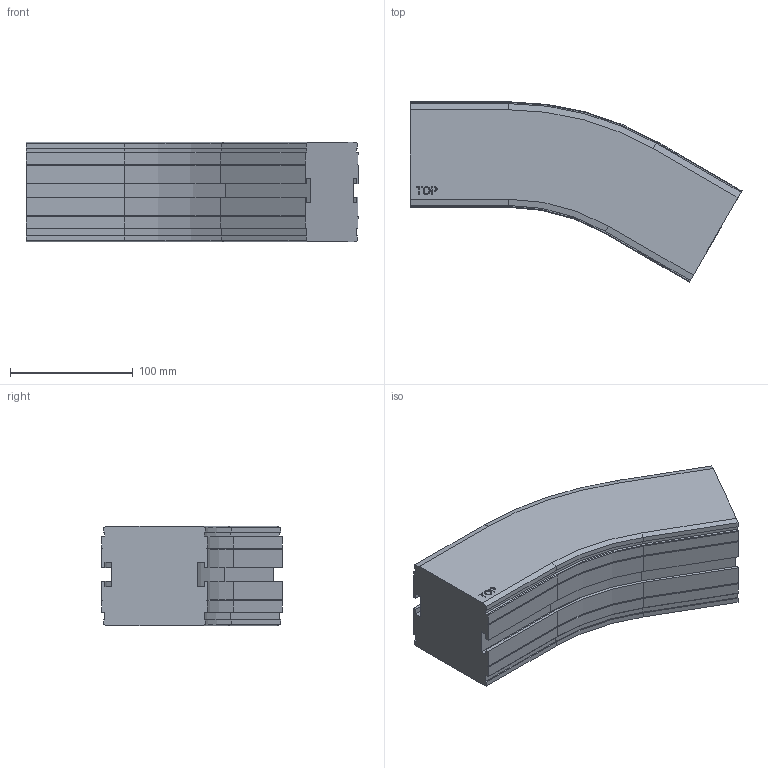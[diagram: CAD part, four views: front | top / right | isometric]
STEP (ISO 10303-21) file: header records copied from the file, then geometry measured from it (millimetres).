
FILE_DESCRIPTION((''),'2;1');
FILE_NAME('C:\Vault Klient\Projekt\Koncept konstruktion\Serie 830 Balk\830-5140.stp','2009-11-27T08:37:13',('Mathias'),(''),'Autodesk Inventor 2010','Autodesk Inventor 2010','');
FILE_SCHEMA(('AUTOMOTIVE_DESIGN { 1 0 10303 214 1 1 1 1 }'));
Length unit declared in the file: millimetre
Products named in the file (1): 830-5140
Bounding box: 270.78 x 147.03 x 81.5 mm (x, y, z)
Volume: 1759558.9 mm3; surface area: 121465.4 mm2
Topology: 1 solids, 1 shells, 169 faces, 446 edges, 284 vertices
Faces by surface type: plane 109, cylinder 30, bspline 14, cone 12, torus 4
Entity records: 5295 total; most frequent: CARTESIAN_POINT 1094, ORIENTED_EDGE 892, DIRECTION 802, EDGE_CURVE 446, VECTOR 346, LINE 346, VERTEX_POINT 284, AXIS2_PLACEMENT_3D 228
